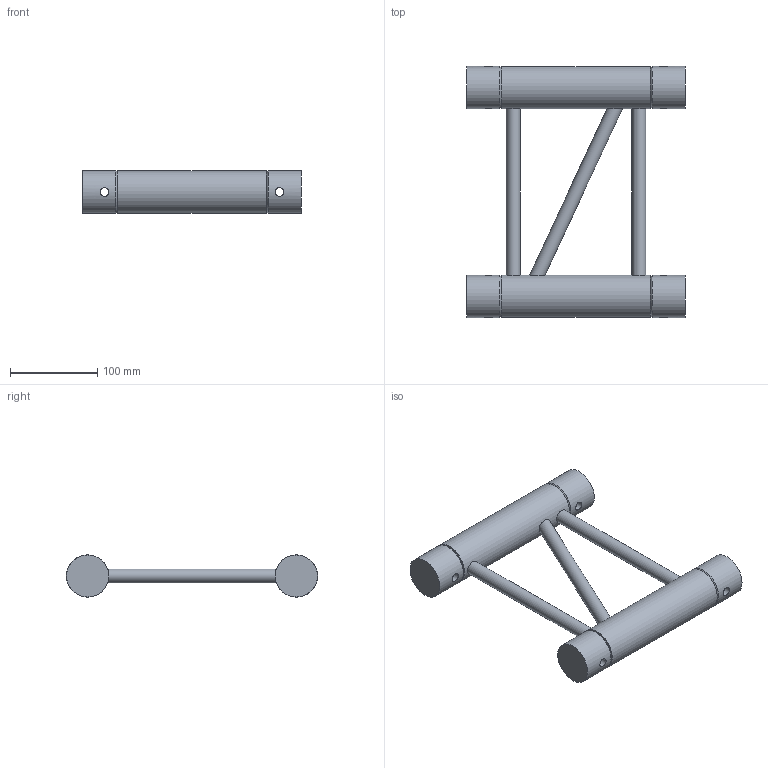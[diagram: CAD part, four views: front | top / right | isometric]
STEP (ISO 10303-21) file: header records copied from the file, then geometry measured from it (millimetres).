
FILE_DESCRIPTION(/* description */ (''),/* implementation_level */ '2;1');
FILE_NAME(/* name */ 'C:\Users\stephan\Desktop\Nieuwe map\H30L\111050036.stp',/* time_stamp */ '2016-09-12T11:44:35+02:00',/* author */ ('Stephan'),/* organization */ (''),/* preprocessor_version */ 'ST-DEVELOPER v15.6',/* originating_system */ 'Autodesk Inventor 2015',/* authorisation */ '');
FILE_SCHEMA (('AUTOMOTIVE_DESIGN { 1 0 10303 214 3 1 1 }'));
Length unit declared in the file: millimetre
Products named in the file (1): 160026971
Bounding box: 250 x 287.3 x 48.3 mm (x, y, z)
Volume: 593184.9 mm3; surface area: 176955.1 mm2
Topology: 5 solids, 7 shells, 49 faces, 86 edges, 55 vertices
Faces by surface type: plane 26, cylinder 19, cone 4
Full cylindrical faces by diameter (mm): 10 x4, 16 x3, 41.8 x4, 42.3 x2, 48.3 x6
Entity records: 1437 total; most frequent: CARTESIAN_POINT 442, DIRECTION 180, ORIENTED_EDGE 124, EDGE_LOOP 92, AXIS2_PLACEMENT_3D 88, EDGE_CURVE 58, VERTEX_POINT 54, STYLED_ITEM 51
